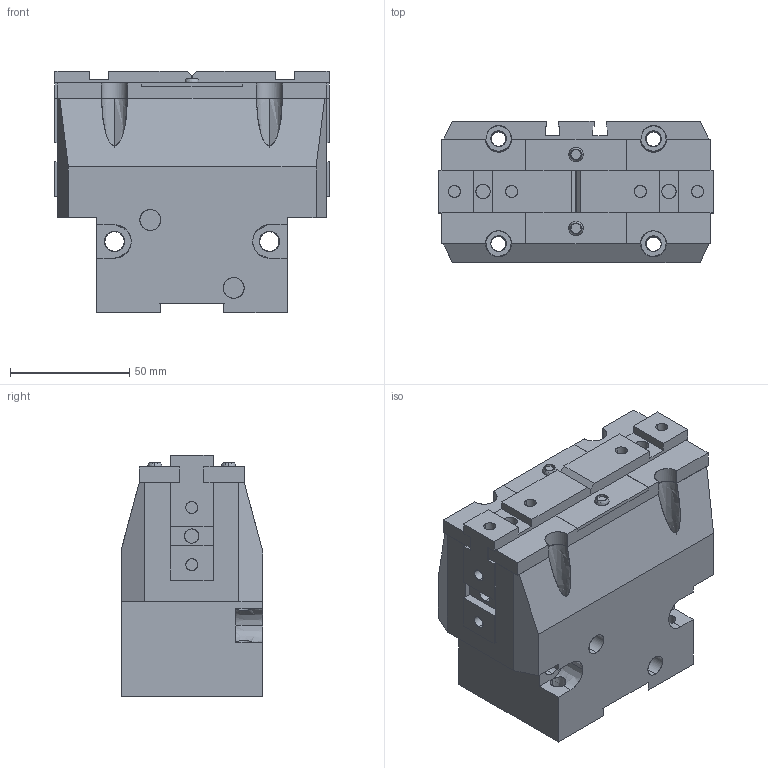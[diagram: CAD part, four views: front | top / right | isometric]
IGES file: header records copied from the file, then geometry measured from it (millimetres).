
Global section: file name: C:\Documents and Settings\Administrateur\Mes documents\OPE-115-CLOSED.igs; native system: AutoCAD-16.0s (LMS Tech) (Microsoft Windows NT Version 5.1 (x86)); preprocessor: Autodesk IGES Translator Mechanical Desktop.R7.0.43.0 (Mar 18 2003) from Autodesk, Inc.; date: 20050629.122128; units: millimetre
Bounding box: 115 x 59.2 x 101.5 mm (x, y, z)
Surface area: 98182.4 mm2 (no closed solid volume)
Topology: 0 solids, 0 shells, 271 faces, 2724 edges, 2805 vertices
Faces by surface type: bspline 271
